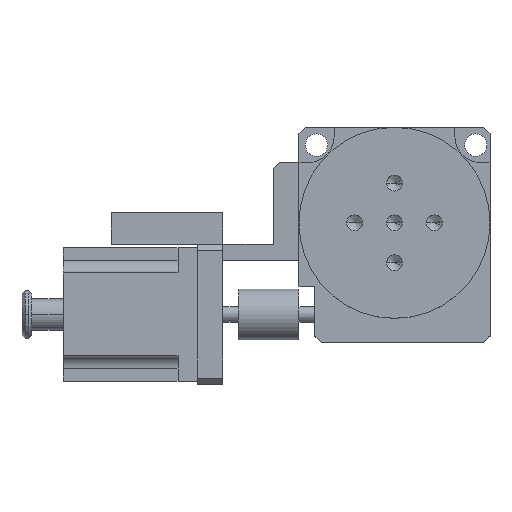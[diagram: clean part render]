
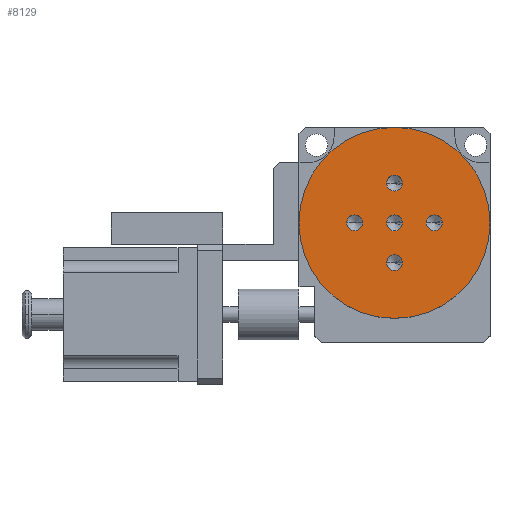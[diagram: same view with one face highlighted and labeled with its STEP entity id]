
A CAD part, top view. The second image highlights one B-rep face of the part: STEP entity #8129.
In plain terms, the highlighted planar face has unit normal (0, 0, 1).
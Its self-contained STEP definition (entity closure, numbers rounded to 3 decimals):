
#230 = EDGE_LOOP ( 'NONE', ( #869, #2823 ) ) ;
#352 = VERTEX_POINT ( 'NONE', #6198 ) ;
#421 = EDGE_CURVE ( 'NONE', #10057, #693, #10300, .T. ) ;
#596 = CARTESIAN_POINT ( 'NONE',  ( 15., 0., 45. ) ) ;
#642 = DIRECTION ( 'NONE',  ( 0., 0., 1. ) ) ;
#693 = VERTEX_POINT ( 'NONE', #3186 ) ;
#770 = DIRECTION ( 'NONE',  ( 1., 0., 0. ) ) ;
#809 = VERTEX_POINT ( 'NONE', #12447 ) ;
#855 = CARTESIAN_POINT ( 'NONE',  ( -2.5, 0., 45. ) ) ;
#869 = ORIENTED_EDGE ( 'NONE', *, *, #8653, .T. ) ;
#871 = AXIS2_PLACEMENT_3D ( 'NONE', #5263, #5225, #6221 ) ;
#1038 = DIRECTION ( 'NONE',  ( 0., 0., -1. ) ) ;
#1376 = EDGE_CURVE ( 'NONE', #6201, #9016, #5012, .T. ) ;
#1535 = EDGE_CURVE ( 'NONE', #9016, #6201, #7170, .T. ) ;
#1544 = AXIS2_PLACEMENT_3D ( 'NONE', #5860, #12821, #6847 ) ;
#1661 = CARTESIAN_POINT ( 'NONE',  ( -15., 0., 45. ) ) ;
#1680 = CARTESIAN_POINT ( 'NONE',  ( 0., -12.5, 45. ) ) ;
#1729 = DIRECTION ( 'NONE',  ( 0., 0., -1. ) ) ;
#1759 = EDGE_LOOP ( 'NONE', ( #3100, #3187 ) ) ;
#1844 = AXIS2_PLACEMENT_3D ( 'NONE', #11439, #9442, #8444 ) ;
#1865 = CIRCLE ( 'NONE', #9144, 2.5 ) ;
#2009 = AXIS2_PLACEMENT_3D ( 'NONE', #7650, #8560, #5635 ) ;
#2161 = CARTESIAN_POINT ( 'NONE',  ( -2.5, -12.5, 45. ) ) ;
#2440 = AXIS2_PLACEMENT_3D ( 'NONE', #6485, #642, #5590 ) ;
#2484 = EDGE_CURVE ( 'NONE', #12720, #352, #7312, .T. ) ;
#2579 = EDGE_CURVE ( 'NONE', #6514, #9650, #12765, .T. ) ;
#2593 = ORIENTED_EDGE ( 'NONE', *, *, #1376, .T. ) ;
#2823 = ORIENTED_EDGE ( 'NONE', *, *, #2484, .T. ) ;
#3100 = ORIENTED_EDGE ( 'NONE', *, *, #2579, .T. ) ;
#3186 = CARTESIAN_POINT ( 'NONE',  ( 10., 0., 45. ) ) ;
#3187 = ORIENTED_EDGE ( 'NONE', *, *, #6273, .T. ) ;
#3249 = ORIENTED_EDGE ( 'NONE', *, *, #11195, .F. ) ;
#3302 = AXIS2_PLACEMENT_3D ( 'NONE', #11681, #9652, #770 ) ;
#3684 = EDGE_LOOP ( 'NONE', ( #4039, #3249 ) ) ;
#4039 = ORIENTED_EDGE ( 'NONE', *, *, #9904, .F. ) ;
#4153 = DIRECTION ( 'NONE',  ( 1., 0., 0. ) ) ;
#4165 = CIRCLE ( 'NONE', #1544, 2.5 ) ;
#4177 = VERTEX_POINT ( 'NONE', #9393 ) ;
#4245 = FACE_BOUND ( 'NONE', #6240, .T. ) ;
#4709 = CARTESIAN_POINT ( 'NONE',  ( 30., 0., 45. ) ) ;
#4757 = CIRCLE ( 'NONE', #1844, 2.5 ) ;
#4762 = CARTESIAN_POINT ( 'NONE',  ( -2.5, 12.5, 45. ) ) ;
#4946 = CARTESIAN_POINT ( 'NONE',  ( -12.5, 0., 45. ) ) ;
#5012 = CIRCLE ( 'NONE', #2009, 2.5 ) ;
#5021 = FACE_BOUND ( 'NONE', #230, .T. ) ;
#5225 = DIRECTION ( 'NONE',  ( 0., 0., -1. ) ) ;
#5263 = CARTESIAN_POINT ( 'NONE',  ( 0., 0., 45. ) ) ;
#5513 = ORIENTED_EDGE ( 'NONE', *, *, #11939, .T. ) ;
#5590 = DIRECTION ( 'NONE',  ( 1., 0., 0. ) ) ;
#5635 = DIRECTION ( 'NONE',  ( 1., 0., 0. ) ) ;
#5677 = AXIS2_PLACEMENT_3D ( 'NONE', #12485, #8451, #12440 ) ;
#5837 = ORIENTED_EDGE ( 'NONE', *, *, #1535, .T. ) ;
#5860 = CARTESIAN_POINT ( 'NONE',  ( -12.5, 0., 45. ) ) ;
#6153 = CIRCLE ( 'NONE', #6736, 2.5 ) ;
#6195 = DIRECTION ( 'NONE',  ( 1., 0., 0. ) ) ;
#6198 = CARTESIAN_POINT ( 'NONE',  ( 2.5, -12.5, 45. ) ) ;
#6201 = VERTEX_POINT ( 'NONE', #6889 ) ;
#6221 = DIRECTION ( 'NONE',  ( 1., 0., 0. ) ) ;
#6240 = EDGE_LOOP ( 'NONE', ( #5513, #12262 ) ) ;
#6273 = EDGE_CURVE ( 'NONE', #9650, #6514, #6153, .T. ) ;
#6331 = CARTESIAN_POINT ( 'NONE',  ( 2.5, 12.5, 45. ) ) ;
#6468 = DIRECTION ( 'NONE',  ( 1., 0., 0. ) ) ;
#6485 = CARTESIAN_POINT ( 'NONE',  ( -30., -30., 45. ) ) ;
#6514 = VERTEX_POINT ( 'NONE', #6331 ) ;
#6563 = CIRCLE ( 'NONE', #7055, 2.5 ) ;
#6579 = FACE_BOUND ( 'NONE', #8966, .T. ) ;
#6650 = VERTEX_POINT ( 'NONE', #4709 ) ;
#6736 = AXIS2_PLACEMENT_3D ( 'NONE', #7835, #7882, #10947 ) ;
#6847 = DIRECTION ( 'NONE',  ( 1., 0., 0. ) ) ;
#6889 = CARTESIAN_POINT ( 'NONE',  ( 2.5, 0., 45. ) ) ;
#6912 = DIRECTION ( 'NONE',  ( 1., 0., 0. ) ) ;
#6930 = VERTEX_POINT ( 'NONE', #1661 ) ;
#7055 = AXIS2_PLACEMENT_3D ( 'NONE', #1680, #1729, #6468 ) ;
#7170 = CIRCLE ( 'NONE', #871, 2.5 ) ;
#7312 = CIRCLE ( 'NONE', #9688, 2.5 ) ;
#7606 = EDGE_CURVE ( 'NONE', #693, #10057, #4757, .T. ) ;
#7650 = CARTESIAN_POINT ( 'NONE',  ( 0., 0., 45. ) ) ;
#7835 = CARTESIAN_POINT ( 'NONE',  ( 0., 12.5, 45. ) ) ;
#7882 = DIRECTION ( 'NONE',  ( 0., 0., -1. ) ) ;
#8041 = EDGE_LOOP ( 'NONE', ( #2593, #5837 ) ) ;
#8086 = DIRECTION ( 'NONE',  ( 1., 0., 0. ) ) ;
#8129 = ADVANCED_FACE ( 'NONE', ( #11706, #5021, #12495, #6579, #4245, #9509 ), #12452, .T. ) ;
#8291 = CARTESIAN_POINT ( 'NONE',  ( 0., 12.5, 45. ) ) ;
#8444 = DIRECTION ( 'NONE',  ( 1., 0., 0. ) ) ;
#8451 = DIRECTION ( 'NONE',  ( 0., 0., -1. ) ) ;
#8560 = DIRECTION ( 'NONE',  ( 0., 0., -1. ) ) ;
#8602 = ORIENTED_EDGE ( 'NONE', *, *, #421, .T. ) ;
#8653 = EDGE_CURVE ( 'NONE', #352, #12720, #6563, .T. ) ;
#8731 = AXIS2_PLACEMENT_3D ( 'NONE', #10038, #1038, #4153 ) ;
#8966 = EDGE_LOOP ( 'NONE', ( #8602, #9654 ) ) ;
#9016 = VERTEX_POINT ( 'NONE', #855 ) ;
#9144 = AXIS2_PLACEMENT_3D ( 'NONE', #4946, #12895, #6912 ) ;
#9336 = DIRECTION ( 'NONE',  ( 0., 0., -1. ) ) ;
#9393 = CARTESIAN_POINT ( 'NONE',  ( -10., 0., 45. ) ) ;
#9442 = DIRECTION ( 'NONE',  ( 0., 0., -1. ) ) ;
#9509 = FACE_BOUND ( 'NONE', #8041, .T. ) ;
#9633 = CIRCLE ( 'NONE', #5677, 30. ) ;
#9650 = VERTEX_POINT ( 'NONE', #4762 ) ;
#9652 = DIRECTION ( 'NONE',  ( 0., 0., -1. ) ) ;
#9654 = ORIENTED_EDGE ( 'NONE', *, *, #7606, .T. ) ;
#9688 = AXIS2_PLACEMENT_3D ( 'NONE', #11762, #9813, #8086 ) ;
#9813 = DIRECTION ( 'NONE',  ( 0., 0., -1. ) ) ;
#9849 = AXIS2_PLACEMENT_3D ( 'NONE', #8291, #9336, #6195 ) ;
#9904 = EDGE_CURVE ( 'NONE', #6650, #809, #9633, .T. ) ;
#10038 = CARTESIAN_POINT ( 'NONE',  ( 0., 0., 45. ) ) ;
#10057 = VERTEX_POINT ( 'NONE', #596 ) ;
#10300 = CIRCLE ( 'NONE', #3302, 2.5 ) ;
#10947 = DIRECTION ( 'NONE',  ( 1., 0., 0. ) ) ;
#11174 = EDGE_CURVE ( 'NONE', #6930, #4177, #1865, .T. ) ;
#11195 = EDGE_CURVE ( 'NONE', #809, #6650, #12429, .T. ) ;
#11439 = CARTESIAN_POINT ( 'NONE',  ( 12.5, 0., 45. ) ) ;
#11681 = CARTESIAN_POINT ( 'NONE',  ( 12.5, 0., 45. ) ) ;
#11706 = FACE_OUTER_BOUND ( 'NONE', #3684, .T. ) ;
#11762 = CARTESIAN_POINT ( 'NONE',  ( 0., -12.5, 45. ) ) ;
#11939 = EDGE_CURVE ( 'NONE', #4177, #6930, #4165, .T. ) ;
#12262 = ORIENTED_EDGE ( 'NONE', *, *, #11174, .T. ) ;
#12429 = CIRCLE ( 'NONE', #8731, 30. ) ;
#12440 = DIRECTION ( 'NONE',  ( 1., 0., 0. ) ) ;
#12447 = CARTESIAN_POINT ( 'NONE',  ( -30., 0., 45. ) ) ;
#12452 = PLANE ( 'NONE',  #2440 ) ;
#12485 = CARTESIAN_POINT ( 'NONE',  ( 0., 0., 45. ) ) ;
#12495 = FACE_BOUND ( 'NONE', #1759, .T. ) ;
#12720 = VERTEX_POINT ( 'NONE', #2161 ) ;
#12765 = CIRCLE ( 'NONE', #9849, 2.5 ) ;
#12821 = DIRECTION ( 'NONE',  ( 0., 0., -1. ) ) ;
#12895 = DIRECTION ( 'NONE',  ( 0., 0., -1. ) ) ;
